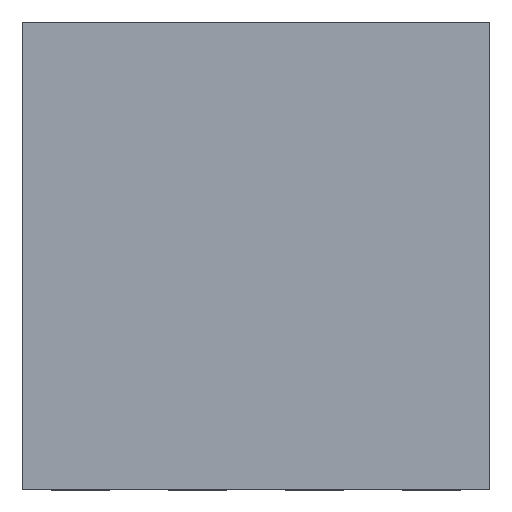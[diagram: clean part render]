
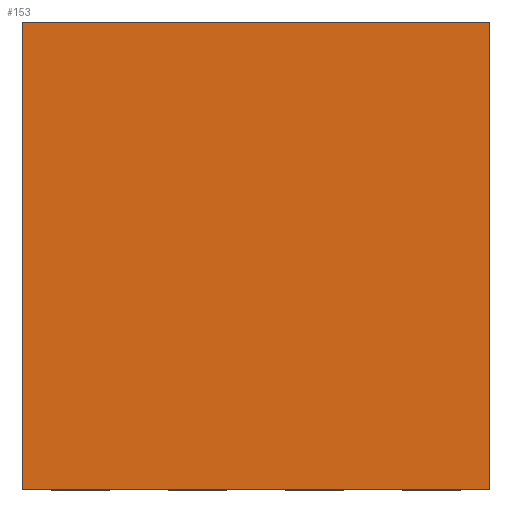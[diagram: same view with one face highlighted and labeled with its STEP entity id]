
A CAD part, top view. The second image highlights one B-rep face of the part: STEP entity #153.
In plain terms, the highlighted planar face has unit normal (0, 0, 1).
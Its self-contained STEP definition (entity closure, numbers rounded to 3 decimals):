
#24 = VERTEX_POINT('',#25);
#25 = CARTESIAN_POINT('',(-0.8,-0.8,0.4));
#40 = VERTEX_POINT('',#41);
#41 = CARTESIAN_POINT('',(-0.8,0.8,0.4));
#47 = EDGE_CURVE('',#24,#40,#48,.T.);
#48 = LINE('',#49,#50);
#49 = CARTESIAN_POINT('',(-0.8,-0.8,0.4));
#50 = VECTOR('',#51,1.);
#51 = DIRECTION('',(0.,1.,0.));
#64 = VERTEX_POINT('',#65);
#65 = CARTESIAN_POINT('',(0.8,-0.8,0.4));
#80 = VERTEX_POINT('',#81);
#81 = CARTESIAN_POINT('',(0.8,0.8,0.4));
#87 = EDGE_CURVE('',#64,#80,#88,.T.);
#88 = LINE('',#89,#90);
#89 = CARTESIAN_POINT('',(0.8,-0.8,0.4));
#90 = VECTOR('',#91,1.);
#91 = DIRECTION('',(0.,1.,0.));
#108 = EDGE_CURVE('',#24,#64,#109,.T.);
#109 = LINE('',#110,#111);
#110 = CARTESIAN_POINT('',(-0.8,-0.8,0.4));
#111 = VECTOR('',#112,1.);
#112 = DIRECTION('',(1.,0.,0.));
#130 = EDGE_CURVE('',#40,#80,#131,.T.);
#131 = LINE('',#132,#133);
#132 = CARTESIAN_POINT('',(-0.8,0.8,0.4));
#133 = VECTOR('',#134,1.);
#134 = DIRECTION('',(1.,0.,0.));
#153 = ADVANCED_FACE('',(#154),#160,.T.);
#154 = FACE_BOUND('',#155,.T.);
#155 = EDGE_LOOP('',(#156,#157,#158,#159));
#156 = ORIENTED_EDGE('',*,*,#47,.F.);
#157 = ORIENTED_EDGE('',*,*,#108,.T.);
#158 = ORIENTED_EDGE('',*,*,#87,.T.);
#159 = ORIENTED_EDGE('',*,*,#130,.F.);
#160 = PLANE('',#161);
#161 = AXIS2_PLACEMENT_3D('',#162,#163,#164);
#162 = CARTESIAN_POINT('',(-0.8,-0.8,0.4));
#163 = DIRECTION('',(0.,0.,1.));
#164 = DIRECTION('',(1.,0.,0.));
